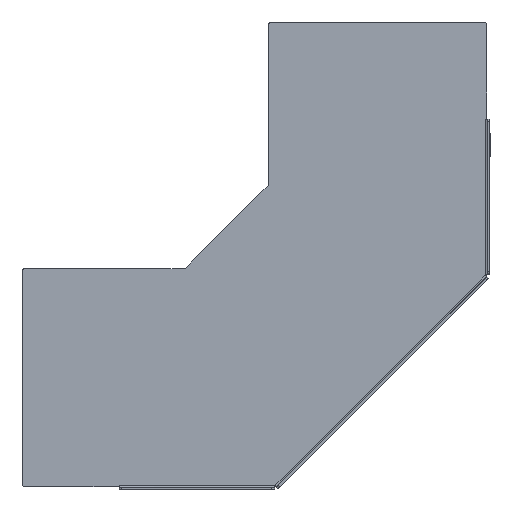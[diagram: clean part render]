
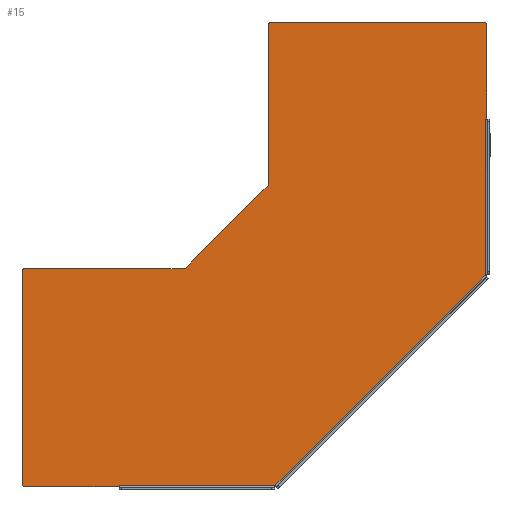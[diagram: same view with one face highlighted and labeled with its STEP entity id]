
A CAD part, top view. The second image highlights one B-rep face of the part: STEP entity #15.
In plain terms, the highlighted planar face has unit normal (0, 0, 1).
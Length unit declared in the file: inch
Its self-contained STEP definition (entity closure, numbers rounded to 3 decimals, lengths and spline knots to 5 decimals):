
#9 = ORIENTED_EDGE ( 'NONE', *, *, #40, .T. ) ;
#10 = EDGE_CURVE ( 'NONE', #1680, #19, #585, .T. ) ;
#11 = ORIENTED_EDGE ( 'NONE', *, *, #10, .F. ) ;
#14 = EDGE_LOOP ( 'NONE', ( #11, #9, #24, #1698, #1699, #23, #39, #46, #1683, #20, #1674, #1702, #1706, #1703, #1711, #1713, #1722, #1709 ) ) ;
#15 = ADVANCED_FACE ( 'NONE', ( #575 ), #574, .F. ) ;
#16 = VERTEX_POINT ( 'NONE', #569 ) ;
#19 = VERTEX_POINT ( 'NONE', #568 ) ;
#20 = ORIENTED_EDGE ( 'NONE', *, *, #1697, .T. ) ;
#21 = EDGE_CURVE ( 'NONE', #1682, #1694, #567, .T. ) ;
#22 = EDGE_CURVE ( 'NONE', #37, #44, #562, .T. ) ;
#23 = ORIENTED_EDGE ( 'NONE', *, *, #21, .T. ) ;
#24 = ORIENTED_EDGE ( 'NONE', *, *, #22, .T. ) ;
#36 = EDGE_CURVE ( 'NONE', #1694, #1695, #613, .T. ) ;
#37 = VERTEX_POINT ( 'NONE', #609 ) ;
#39 = ORIENTED_EDGE ( 'NONE', *, *, #36, .T. ) ;
#40 = EDGE_CURVE ( 'NONE', #1680, #37, #608, .T. ) ;
#44 = VERTEX_POINT ( 'NONE', #603 ) ;
#46 = ORIENTED_EDGE ( 'NONE', *, *, #1679, .T. ) ;
#560 = VECTOR ( 'NONE', #619, 39.37008 ) ;
#561 = CARTESIAN_POINT ( 'NONE',  ( 5.7478, 4.97, 0.0478 ) ) ;
#562 = LINE ( 'NONE', #561, #560 ) ;
#563 = DIRECTION ( 'NONE',  ( -1., 0., 0. ) ) ;
#564 = DIRECTION ( 'NONE',  ( 0., 0., -1. ) ) ;
#565 = CARTESIAN_POINT ( 'NONE',  ( 5.6853, 1.21614, 0.0478 ) ) ;
#566 = AXIS2_PLACEMENT_3D ( 'NONE', #565, #564, #563 ) ;
#567 = CIRCLE ( 'NONE', #566, 0.0625 ) ;
#568 = CARTESIAN_POINT ( 'NONE',  ( 10.7928, 2.72, 0.0478 ) ) ;
#569 = CARTESIAN_POINT ( 'NONE',  ( 0.03, -0.8103, 0.0478 ) ) ;
#570 = DIRECTION ( 'NONE',  ( -1., 0., 0. ) ) ;
#571 = DIRECTION ( 'NONE',  ( 0., 0., -1. ) ) ;
#572 = CARTESIAN_POINT ( 'NONE',  ( 16.70779, 4.97, 0.0478 ) ) ;
#573 = AXIS2_PLACEMENT_3D ( 'NONE', #572, #571, #570 ) ;
#574 = PLANE ( 'NONE',  #573 ) ;
#575 = FACE_OUTER_BOUND ( 'NONE', #14, .T. ) ;
#582 = DIRECTION ( 'NONE',  ( 0., -1., 0. ) ) ;
#583 = VECTOR ( 'NONE', #582, 39.37008 ) ;
#584 = CARTESIAN_POINT ( 'NONE',  ( 10.7928, 4.97, 0.0478 ) ) ;
#585 = LINE ( 'NONE', #584, #583 ) ;
#603 = CARTESIAN_POINT ( 'NONE',  ( 5.8103, 4.97, 0.0478 ) ) ;
#604 = DIRECTION ( 'NONE',  ( -1., 0., 0. ) ) ;
#605 = DIRECTION ( 'NONE',  ( 0., 0., 1. ) ) ;
#606 = CARTESIAN_POINT ( 'NONE',  ( 10.7303, 4.9075, 0.0478 ) ) ;
#607 = AXIS2_PLACEMENT_3D ( 'NONE', #606, #605, #604 ) ;
#608 = CIRCLE ( 'NONE', #607, 0.0625 ) ;
#609 = CARTESIAN_POINT ( 'NONE',  ( 10.7303, 4.97, 0.0478 ) ) ;
#610 = DIRECTION ( 'NONE',  ( -0.707, -0.707, 0. ) ) ;
#611 = VECTOR ( 'NONE', #610, 39.37008 ) ;
#612 = CARTESIAN_POINT ( 'NONE',  ( 3.80975, -0.7478, 0.0478 ) ) ;
#613 = LINE ( 'NONE', #612, #611 ) ;
#619 = DIRECTION ( 'NONE',  ( -1., 0., 0. ) ) ;
#1290 = VECTOR ( 'NONE', #1519, 39.37008 ) ;
#1519 = DIRECTION ( 'NONE',  ( -1., 0., 0. ) ) ;
#1520 = CARTESIAN_POINT ( 'NONE',  ( 0.03, -0.7478, 0.0478 ) ) ;
#1521 = LINE ( 'NONE', #1520, #1290 ) ;
#1522 = CARTESIAN_POINT ( 'NONE',  ( 0.0925, -0.7478, 0.0478 ) ) ;
#1523 = CARTESIAN_POINT ( 'NONE',  ( 5.7478, 1.21614, 0.0478 ) ) ;
#1524 = CARTESIAN_POINT ( 'NONE',  ( 10.7928, 4.9075, 0.0478 ) ) ;
#1525 = DIRECTION ( 'NONE',  ( -1., 0., 0. ) ) ;
#1526 = DIRECTION ( 'NONE',  ( 0., 0., -1. ) ) ;
#1527 = CARTESIAN_POINT ( 'NONE',  ( 3.78386, -0.6853, 0.0478 ) ) ;
#1528 = AXIS2_PLACEMENT_3D ( 'NONE', #1527, #1526, #1525 ) ;
#1529 = CIRCLE ( 'NONE', #1528, 0.0625 ) ;
#1530 = DIRECTION ( 'NONE',  ( -1., 0., 0. ) ) ;
#1531 = DIRECTION ( 'NONE',  ( 0., 0., 1. ) ) ;
#1532 = CARTESIAN_POINT ( 'NONE',  ( 5.8103, 4.9075, 0.0478 ) ) ;
#1533 = AXIS2_PLACEMENT_3D ( 'NONE', #1532, #1531, #1530 ) ;
#1534 = CIRCLE ( 'NONE', #1533, 0.0625 ) ;
#1551 = AXIS2_PLACEMENT_3D ( 'NONE', #1612, #1611, #1610 ) ;
#1552 = CIRCLE ( 'NONE', #1551, 0.0625 ) ;
#1553 = CARTESIAN_POINT ( 'NONE',  ( 5.89125, -5.773, 0.0478 ) ) ;
#1554 = DIRECTION ( 'NONE',  ( 0., -1., 0. ) ) ;
#1555 = VECTOR ( 'NONE', #1554, 39.37008 ) ;
#1556 = CARTESIAN_POINT ( 'NONE',  ( 5.7478, 1.19025, 0.0478 ) ) ;
#1557 = LINE ( 'NONE', #1556, #1555 ) ;
#1558 = DIRECTION ( 'NONE',  ( -1., 0., 0. ) ) ;
#1559 = DIRECTION ( 'NONE',  ( 0., 0., 1. ) ) ;
#1560 = CARTESIAN_POINT ( 'NONE',  ( 0.0925, -0.8103, 0.0478 ) ) ;
#1561 = AXIS2_PLACEMENT_3D ( 'NONE', #1560, #1559, #1558 ) ;
#1562 = CIRCLE ( 'NONE', #1561, 0.0625 ) ;
#1563 = CARTESIAN_POINT ( 'NONE',  ( 5.7478, 4.9075, 0.0478 ) ) ;
#1564 = CARTESIAN_POINT ( 'NONE',  ( 3.82805, -0.72949, 0.0478 ) ) ;
#1565 = CARTESIAN_POINT ( 'NONE',  ( 5.72949, 1.17195, 0.0478 ) ) ;
#1566 = CARTESIAN_POINT ( 'NONE',  ( 3.78386, -0.7478, 0.0478 ) ) ;
#1583 = CARTESIAN_POINT ( 'NONE',  ( 10.773, -0.89125, 0.0478 ) ) ;
#1584 = DIRECTION ( 'NONE',  ( 0.707, 0.707, 0. ) ) ;
#1585 = VECTOR ( 'NONE', #1584, 39.37008 ) ;
#1586 = CARTESIAN_POINT ( 'NONE',  ( 5.87602, -5.78823, 0.0478 ) ) ;
#1587 = LINE ( 'NONE', #1586, #1585 ) ;
#1588 = CARTESIAN_POINT ( 'NONE',  ( 2.28, -5.7928, 0.0478 ) ) ;
#1589 = CARTESIAN_POINT ( 'NONE',  ( 10.773, 2.72, 0.0478 ) ) ;
#1590 = DIRECTION ( 'NONE',  ( 0., 1., 0. ) ) ;
#1591 = VECTOR ( 'NONE', #1590, 39.37008 ) ;
#1592 = CARTESIAN_POINT ( 'NONE',  ( 2.28, -5.825, 0.0478 ) ) ;
#1593 = LINE ( 'NONE', #1592, #1591 ) ;
#1595 = DIRECTION ( 'NONE',  ( 0., -1., 0. ) ) ;
#1596 = VECTOR ( 'NONE', #1595, 39.37008 ) ;
#1597 = CARTESIAN_POINT ( 'NONE',  ( 0.03, -0.7478, 0.0478 ) ) ;
#1598 = LINE ( 'NONE', #1597, #1596 ) ;
#1599 = CARTESIAN_POINT ( 'NONE',  ( 0.0925, -5.7928, 0.0478 ) ) ;
#1600 = DIRECTION ( 'NONE',  ( 1., 0., 0. ) ) ;
#1601 = VECTOR ( 'NONE', #1600, 39.37008 ) ;
#1602 = CARTESIAN_POINT ( 'NONE',  ( -34.70454, -5.773, 0.0478 ) ) ;
#1603 = LINE ( 'NONE', #1602, #1601 ) ;
#1604 = CARTESIAN_POINT ( 'NONE',  ( 2.28, -5.773, 0.0478 ) ) ;
#1605 = DIRECTION ( 'NONE',  ( -1., 0., 0. ) ) ;
#1606 = VECTOR ( 'NONE', #1605, 39.37008 ) ;
#1607 = CARTESIAN_POINT ( 'NONE',  ( 0.03, -5.7928, 0.0478 ) ) ;
#1608 = LINE ( 'NONE', #1607, #1606 ) ;
#1609 = CARTESIAN_POINT ( 'NONE',  ( 0.03, -5.7303, 0.0478 ) ) ;
#1610 = DIRECTION ( 'NONE',  ( -1., 0., 0. ) ) ;
#1611 = DIRECTION ( 'NONE',  ( 0., 0., 1. ) ) ;
#1612 = CARTESIAN_POINT ( 'NONE',  ( 0.0925, -5.7303, 0.0478 ) ) ;
#1631 = DIRECTION ( 'NONE',  ( -1., 0., 0. ) ) ;
#1632 = VECTOR ( 'NONE', #1631, 39.37008 ) ;
#1633 = CARTESIAN_POINT ( 'NONE',  ( 10.825, 2.72, 0.0478 ) ) ;
#1634 = LINE ( 'NONE', #1633, #1632 ) ;
#1635 = DIRECTION ( 'NONE',  ( 0., 1., 0. ) ) ;
#1636 = VECTOR ( 'NONE', #1635, 39.37008 ) ;
#1637 = CARTESIAN_POINT ( 'NONE',  ( 10.773, -0.91279, 0.0478 ) ) ;
#1638 = LINE ( 'NONE', #1637, #1636 ) ;
#1674 = ORIENTED_EDGE ( 'NONE', *, *, #1714, .T. ) ;
#1678 = EDGE_CURVE ( 'NONE', #44, #1696, #1534, .T. ) ;
#1679 = EDGE_CURVE ( 'NONE', #1695, #1693, #1529, .T. ) ;
#1680 = VERTEX_POINT ( 'NONE', #1524 ) ;
#1682 = VERTEX_POINT ( 'NONE', #1523 ) ;
#1683 = ORIENTED_EDGE ( 'NONE', *, *, #1685, .T. ) ;
#1684 = VERTEX_POINT ( 'NONE', #1522 ) ;
#1685 = EDGE_CURVE ( 'NONE', #1693, #1684, #1521, .T. ) ;
#1693 = VERTEX_POINT ( 'NONE', #1566 ) ;
#1694 = VERTEX_POINT ( 'NONE', #1565 ) ;
#1695 = VERTEX_POINT ( 'NONE', #1564 ) ;
#1696 = VERTEX_POINT ( 'NONE', #1563 ) ;
#1697 = EDGE_CURVE ( 'NONE', #1684, #16, #1562, .T. ) ;
#1698 = ORIENTED_EDGE ( 'NONE', *, *, #1678, .T. ) ;
#1699 = ORIENTED_EDGE ( 'NONE', *, *, #1700, .T. ) ;
#1700 = EDGE_CURVE ( 'NONE', #1696, #1682, #1557, .T. ) ;
#1701 = EDGE_CURVE ( 'NONE', #1705, #1712, #1552, .T. ) ;
#1702 = ORIENTED_EDGE ( 'NONE', *, *, #1701, .T. ) ;
#1703 = ORIENTED_EDGE ( 'NONE', *, *, #1716, .T. ) ;
#1704 = VERTEX_POINT ( 'NONE', #1553 ) ;
#1705 = VERTEX_POINT ( 'NONE', #1609 ) ;
#1706 = ORIENTED_EDGE ( 'NONE', *, *, #1707, .F. ) ;
#1707 = EDGE_CURVE ( 'NONE', #1718, #1712, #1608, .T. ) ;
#1708 = VERTEX_POINT ( 'NONE', #1604 ) ;
#1709 = ORIENTED_EDGE ( 'NONE', *, *, #1726, .F. ) ;
#1710 = EDGE_CURVE ( 'NONE', #1708, #1704, #1603, .T. ) ;
#1711 = ORIENTED_EDGE ( 'NONE', *, *, #1710, .T. ) ;
#1712 = VERTEX_POINT ( 'NONE', #1599 ) ;
#1713 = ORIENTED_EDGE ( 'NONE', *, *, #1719, .T. ) ;
#1714 = EDGE_CURVE ( 'NONE', #16, #1705, #1598, .T. ) ;
#1716 = EDGE_CURVE ( 'NONE', #1718, #1708, #1593, .T. ) ;
#1717 = VERTEX_POINT ( 'NONE', #1589 ) ;
#1718 = VERTEX_POINT ( 'NONE', #1588 ) ;
#1719 = EDGE_CURVE ( 'NONE', #1704, #1720, #1587, .T. ) ;
#1720 = VERTEX_POINT ( 'NONE', #1583 ) ;
#1722 = ORIENTED_EDGE ( 'NONE', *, *, #1724, .T. ) ;
#1724 = EDGE_CURVE ( 'NONE', #1720, #1717, #1638, .T. ) ;
#1726 = EDGE_CURVE ( 'NONE', #19, #1717, #1634, .T. ) ;
